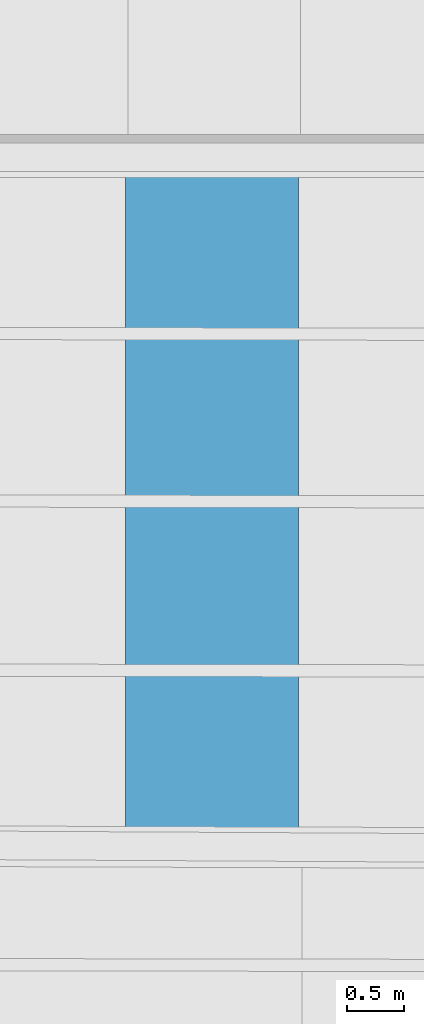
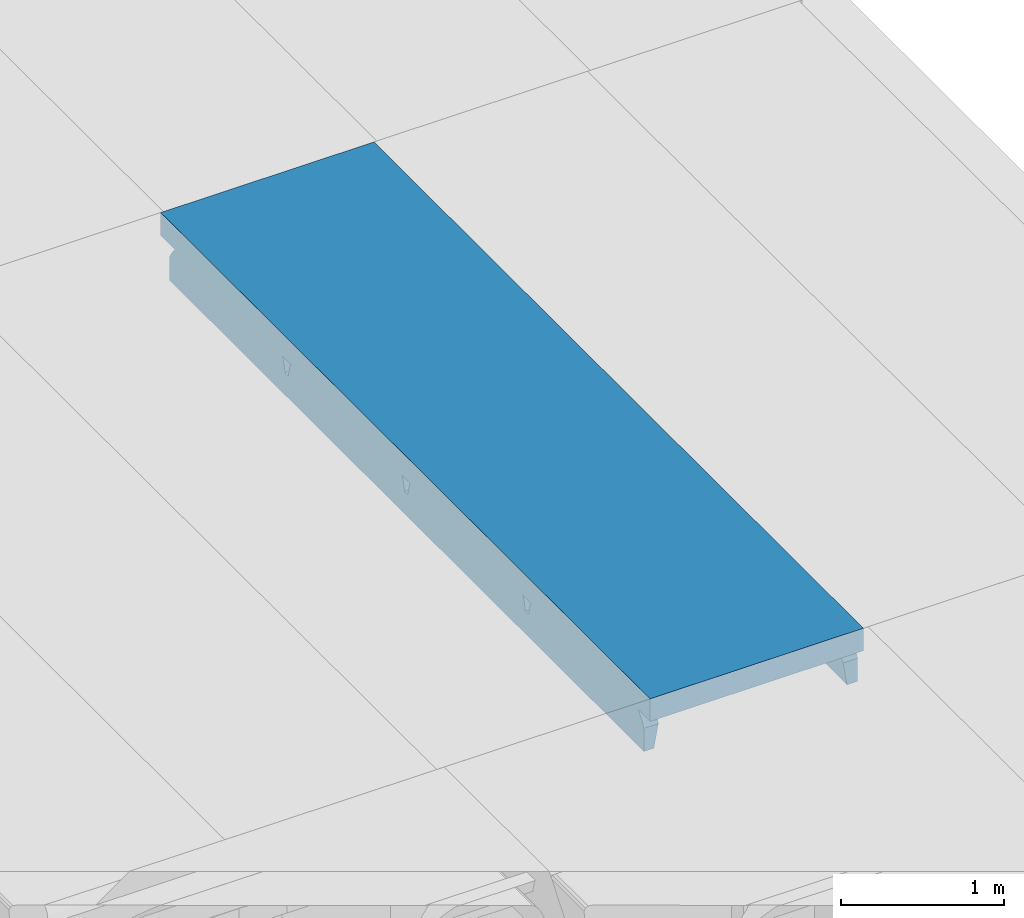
# One storey, part 41 of 301: 1 beam.
"""IFC2X3 building model written with IfcOpenShell, lengths in millimetres."""

from ifc_helpers import new_model, entity, si_unit, converted_unit, derived_unit, money_unit, direction, frame, origin_with_axes, place, context, subcontext, project, spatial, faceted_brep, material, type_object, element, save


model = new_model("IFC2X3")

# Units and contexts
model_context = context("Model", 3, precision=0.01, world=origin_with_axes(), true_north=direction((0.0, 1.0)))
body_context = subcontext(model_context, "Body", "Model", "MODEL_VIEW")
ifc_project = project(units=[si_unit("LENGTHUNIT", "METRE", prefix="MILLI"), si_unit("AREAUNIT", "SQUARE_METRE"), si_unit("VOLUMEUNIT", "CUBIC_METRE"), converted_unit("PLANEANGLEUNIT", "DEGREE", entity("IfcPlaneAngleMeasure", 0.0174532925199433), si_unit("PLANEANGLEUNIT", "RADIAN"), dimensions=[0, 0, 0, 0, 0, 0, 0]), money_unit("EUR"), converted_unit("TIMEUNIT", "Year", entity("IfcTimeMeasure", 31557600.0), si_unit("TIMEUNIT", "SECOND"), dimensions=[0, 0, 1, 0, 0, 0, 0]), si_unit("MASSUNIT", "GRAM", prefix="KILO"), si_unit("THERMODYNAMICTEMPERATUREUNIT", "DEGREE_CELSIUS"), si_unit("LUMINOUSINTENSITYUNIT", "LUMEN"), si_unit("ENERGYUNIT", "JOULE", prefix="MEGA"), derived_unit("THERMALCONDUCTANCEUNIT", [(si_unit("POWERUNIT", "WATT"), 1), (si_unit("LENGTHUNIT", "METRE"), -1), (si_unit("THERMODYNAMICTEMPERATUREUNIT", "KELVIN"), -1)]), derived_unit("SPECIFICHEATCAPACITYUNIT", [(si_unit("ENERGYUNIT", "JOULE"), 1), (si_unit("MASSUNIT", "GRAM", prefix="KILO"), -1), (si_unit("THERMODYNAMICTEMPERATUREUNIT", "KELVIN"), -1)]), derived_unit("MASSDENSITYUNIT", [(si_unit("MASSUNIT", "GRAM", prefix="KILO"), 1), (si_unit("VOLUMEUNIT", "CUBIC_METRE"), -1)])], contexts=[model_context])

# Site, building, storey
site_placement = place(None, frame((0.0, 0.0, 8650.0), z_axis=(0.0, 0.0, 1.0), x_axis=(1.0, 0.0, 0.0)))
site = spatial("IfcSite", under=ifc_project, at=site_placement, Name="43301:001:0844", CompositionType="ELEMENT")
building_placement = place(site_placement, origin_with_axes())
building = spatial("IfcBuilding", under=site, at=building_placement, Name="Kuressaare Ametikooli tuulikute mehaanikute õppekorpus", CompositionType="ELEMENT")
storey_placement = place(building_placement, origin_with_axes())
storey = spatial("IfcBuildingStorey", under=building, at=storey_placement, Name="1.korrus", CompositionType="ELEMENT", Elevation=0.0)

# Beam
ifc_material = material(Name="GENEERILINE - KONSTRUKTRIOON")
beam_type = type_object("IfcBeamType", Name="Precast Double Tee 2 1510 x 440", PredefinedType="NOTDEFINED")
beam_placement = place(storey_placement, frame((99470.87775377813, 50085.26903003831, 7100.000000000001), z_axis=(0.0, 0.0, 1.0), x_axis=(-1.0, 0.0, 0.0)))
element("IfcBeam", 1, at=beam_placement, inside=storey, type_object=beam_type, material=ifc_material, context=body_context, shape_type="Brep", body=[
    faceted_brep([(594.2116174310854, 0.0, -169.8234995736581), (734.9999999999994, 0.0, -169.8234995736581), (734.9999999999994, 0.0, 0.0), (-754.9999999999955, 0.0, 0.0), (-754.9999999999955, 0.0, -169.8234995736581), (-588.1481649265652, 0.0, -169.8234995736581), (590.5789219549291, 0.0, -169.8234995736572), (593.6993855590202, 0.0, -169.7351493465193), (754.9999999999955, 0.03570111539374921, -169.8234995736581), (734.9999999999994, 0.03570111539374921, -169.8234995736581), (594.2116174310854, 176.5184822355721, -169.8234995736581), (754.9999999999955, 176.4735915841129, -169.8234995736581), (734.9999999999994, 0.03570111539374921, 0.0), (754.9999999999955, 0.03570111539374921, 0.0), (754.9999999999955, 6000.116744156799, 0.0), (-754.9999999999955, 6000.116744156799, 0.0), (-754.9999999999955, 6000.116744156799, -169.0000000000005), (-754.9999999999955, 5861.667374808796, -169.0000000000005), (-754.9999999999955, 5872.629985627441, -180.5328579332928), (-754.9999999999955, 5904.302644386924, -221.5483087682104), (-754.9999999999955, 5929.894781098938, -266.6089685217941), (-754.9999999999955, 5929.895306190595, -440.0001340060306), (-754.9999999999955, 108.6676302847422, -440.0001340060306), (-754.9999999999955, 108.6681528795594, -267.4324680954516), (-754.9999999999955, 134.2601435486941, -222.3718083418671), (-754.9999999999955, 165.9326215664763, -181.3563575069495), (-754.9999999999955, 176.8951698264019, -169.8234995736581), (-754.9999999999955, 1502.403344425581, -175.3977593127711), (-754.9999999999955, 1506.977984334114, -184.1935020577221), (-754.9999999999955, 1527.718931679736, -271.7709778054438), (-754.9999999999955, 1567.71898538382, -271.7709778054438), (-754.9999999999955, 1588.458970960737, -184.1936973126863), (-754.9999999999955, 1593.033590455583, -175.39783429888), (-754.9999999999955, 1601.232448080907, -169.8234995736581), (-754.9999999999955, 1494.204553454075, -169.8234995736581), (-754.9999999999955, 2972.818684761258, -184.1935020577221), (-754.9999999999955, 2993.55963210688, -271.7709778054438), (-754.9999999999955, 3033.559685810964, -271.7709778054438), (-754.9999999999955, 3054.299671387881, -184.1936973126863), (-754.9999999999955, 3058.874290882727, -175.39783429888), (-754.9999999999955, 3067.073148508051, -169.8234995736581), (-754.9999999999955, 2960.045253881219, -169.8234995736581), (-754.9999999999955, 2968.244044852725, -175.3977593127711), (-754.9999999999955, 4473.651931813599, -271.7709778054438), (-754.9999999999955, 4513.651985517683, -271.7709778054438), (-754.9999999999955, 4534.391971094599, -184.1936973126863), (-754.9999999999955, 4538.966590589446, -175.39783429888), (-754.9999999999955, 4547.16544821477, -169.8234995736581), (-754.9999999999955, 4440.137553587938, -169.8234995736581), (-754.9999999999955, 4448.336344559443, -175.3977593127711), (-754.9999999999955, 4452.910984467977, -184.1935020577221), (-588.1481649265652, 176.8485863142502, -169.8234995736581), (-588.1481649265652, 1600.959034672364, -169.8234995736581), (-588.1481649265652, 2959.771840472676, -169.8234995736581), (-588.1481649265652, 3066.799735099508, -169.8234995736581), (-588.1481649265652, 4439.864140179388, -169.8234995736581), (-588.1481649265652, 4546.89203480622, -169.8234995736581), (-588.1481649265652, 5861.884551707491, -169.8234995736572), (590.5789219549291, 5857.888831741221, -169.8234995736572), (-588.1481649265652, 1493.931140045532, -169.8234995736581), (593.6993855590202, 5857.794272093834, -169.7351493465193), (610.5576441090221, 5860.50107912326, -172.6428773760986), (610.5576441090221, 4540.7809590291, -172.6428773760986), (594.2116174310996, 4544.954549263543, -169.8234995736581), (594.2116174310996, 4437.926654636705, -169.8234995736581), (610.5576441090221, 4442.046695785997, -172.6428773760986), (610.5576441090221, 3060.688659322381, -172.6428773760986), (594.2116174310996, 3064.862249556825, -169.8234995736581), (594.2116174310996, 2957.834354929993, -169.8234995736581), (610.5576441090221, 2961.954396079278, -172.6428773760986), (610.5576441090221, 1594.847958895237, -172.6428773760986), (594.2116174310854, 1599.021549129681, -169.8234995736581), (594.2116174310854, 1491.993654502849, -169.8234995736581), (610.5576441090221, 1496.113695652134, -172.6428773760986), (610.5576441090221, 173.8339614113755, -172.6428773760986), (625.4118792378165, 165.763719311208, -181.1285984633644), (625.6051041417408, 165.5471692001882, -181.3563575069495), (754.9999999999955, 165.5110433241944, -181.3563575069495), (754.9999999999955, 133.8385653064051, -222.3718083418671), (754.9999999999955, 108.2465746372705, -267.4324680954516), (754.9999999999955, 108.2460520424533, -440.0001340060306), (754.9999999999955, 5924.776617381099, -440.0001340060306), (754.9999999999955, 5924.776092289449, -266.6089685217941), (754.9999999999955, 5899.183955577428, -221.5483087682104), (754.9999999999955, 5867.511296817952, -180.5328579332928), (754.9999999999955, 5856.5486859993, -169.0000000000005), (754.9999999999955, 6000.116744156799, -169.0000000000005), (754.9999999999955, 1598.758071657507, -169.8234995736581), (754.9999999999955, 1590.559214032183, -175.39783429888), (754.9999999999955, 1585.984594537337, -184.1936973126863), (754.9999999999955, 1565.24460896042, -271.7709778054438), (754.9999999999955, 1525.244555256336, -271.7709778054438), (754.9999999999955, 1504.503607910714, -184.1935020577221), (754.9999999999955, 1499.92896800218, -175.3977593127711), (754.9999999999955, 1491.730177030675, -169.8234995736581), (754.9999999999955, 3056.399914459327, -175.39783429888), (754.9999999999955, 3051.82529496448, -184.1936973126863), (754.9999999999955, 3031.085309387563, -271.7709778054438), (754.9999999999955, 2991.08525568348, -271.7709778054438), (754.9999999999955, 2970.344308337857, -184.1935020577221), (754.9999999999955, 2965.769668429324, -175.3977593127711), (754.9999999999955, 2957.570877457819, -169.8234995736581), (754.9999999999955, 3064.598772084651, -169.8234995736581), (754.9999999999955, 4531.917594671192, -184.1936973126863), (754.9999999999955, 4511.177609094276, -271.7709778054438), (754.9999999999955, 4471.177555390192, -271.7709778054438), (754.9999999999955, 4450.436608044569, -184.1935020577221), (754.9999999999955, 4445.861968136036, -175.3977593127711), (754.9999999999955, 4437.663177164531, -169.8234995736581), (754.9999999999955, 4544.691071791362, -169.8234995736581), (754.9999999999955, 4536.492214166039, -175.39783429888), (-608.1505435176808, 5865.352983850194, -173.40101840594), (-620.114016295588, 5872.172741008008, -180.5328579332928), (624.369036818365, 5867.954117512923, -180.5328579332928), (-625.6043121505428, 5874.718770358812, -183.8058130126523), (-638.2645371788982, 5887.035074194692, -199.6996008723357), (-644.5028387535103, 5901.989655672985, -219.0380957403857), (-644.9004198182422, 5903.929422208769, -221.5483087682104), (-652.0373699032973, 5929.545752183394, -266.6089685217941), (-679.4999969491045, 5929.639371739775, -440.0001340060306), (-679.4999969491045, 108.6465513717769, -440.0001340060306), (-652.1678002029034, 108.6394430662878, -267.4324680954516), (-645.0308501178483, 134.2294411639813, -222.3718083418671), (-644.5028387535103, 136.8036148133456, -219.0380957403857), (-638.2645371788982, 151.7352224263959, -199.6996008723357), (-625.6043121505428, 164.0050052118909, -183.8058130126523), (-621.4954151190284, 165.8953483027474, -181.3563575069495), (-608.1505435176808, 173.4535633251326, -173.40101840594), (-611.5000237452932, 1502.168196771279, -175.3977593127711), (-625.6043121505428, 1506.564312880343, -183.8058130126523), (-625.9131265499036, 1506.766454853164, -184.1935020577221), (-638.2645371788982, 1510.458999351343, -199.6996008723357), (-644.5028387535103, 1515.049151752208, -219.0380957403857), (-652.8549567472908, 1527.551550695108, -271.7709778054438), (-652.8549567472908, 1567.551604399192, -271.7709778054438), (-644.5028387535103, 1580.02607951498, -219.0380957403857), (-638.2645371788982, 1584.595584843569, -199.6996008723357), (-625.9132820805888, 1588.247441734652, -184.1936973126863), (-625.6043121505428, 1588.448669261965, -183.8058130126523), (-611.5001495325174, 1592.798443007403, -175.39783429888), (-608.1505435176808, 1595.729916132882, -173.40101840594), (-608.1505435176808, 1499.225840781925, -173.40101840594), (-625.9131265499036, 2972.607155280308, -184.1935020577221), (-638.2645371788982, 2976.299699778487, -199.6996008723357), (-644.5028387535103, 2980.889852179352, -219.0380957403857), (-652.8549567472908, 2993.392251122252, -271.7709778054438), (-652.8549567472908, 3033.392304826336, -271.7709778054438), (-644.5028387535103, 3045.866779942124, -219.0380957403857), (-638.2645371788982, 3050.436285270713, -199.6996008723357), (-625.9132820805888, 3054.088142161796, -184.1936973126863), (-625.6043121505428, 3054.289369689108, -183.8058130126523), (-611.5001495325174, 3058.639143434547, -175.39783429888), (-608.1505435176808, 3061.570616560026, -173.40101840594), (-608.1505435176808, 2965.066541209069, -173.40101840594), (-611.5000237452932, 2968.008897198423, -175.3977593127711), (-625.6043121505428, 2972.405013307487, -183.8058130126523), (-652.8549567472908, 4473.484550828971, -271.7709778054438), (-652.8549567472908, 4513.484604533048, -271.7709778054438), (-644.5028387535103, 4525.959079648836, -219.0380957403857), (-638.2645371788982, 4530.528584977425, -199.6996008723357), (-625.9132820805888, 4534.180441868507, -184.1936973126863), (-625.6043121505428, 4534.381669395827, -183.8058130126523), (-611.5001495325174, 4538.731443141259, -175.39783429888), (-608.1505435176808, 4541.662916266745, -173.40101840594), (-608.1505435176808, 4445.158840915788, -173.40101840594), (-611.5000237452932, 4448.101196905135, -175.3977593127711), (-625.6043121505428, 4452.497313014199, -183.8058130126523), (-625.9131265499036, 4452.69945498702, -184.1935020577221), (-638.2645371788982, 4456.391999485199, -199.6996008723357), (-644.5028387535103, 4460.982151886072, -219.0380957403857), (625.4118792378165, 5868.410620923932, -181.1285984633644), (625.4118792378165, 4533.724065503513, -181.1285984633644), (615.3801898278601, 4536.721003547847, -175.39783429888), (615.3800585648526, 4446.090757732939, -175.3977593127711), (615.3801898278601, 3056.628703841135, -175.39783429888), (625.4118792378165, 4449.054911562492, -181.1285984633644), (625.4118792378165, 3053.631765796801, -181.1285984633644), (615.3800585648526, 2965.998458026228, -175.3977593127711), (625.4118792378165, 1587.791065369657, -181.1285984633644), (615.3801898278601, 1590.788003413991, -175.39783429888), (625.4118792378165, 2968.96261185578, -181.1285984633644), (615.3800585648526, 1500.157757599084, -175.3977593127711), (625.4118792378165, 1503.121911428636, -181.1285984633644), (636.4790028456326, 1507.061429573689, -194.1736948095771), (636.4790028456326, 155.6464770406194, -194.1736948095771), (628.0120644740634, 1504.711697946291, -184.1935020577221), (642.4305280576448, 143.2597108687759, -210.2122455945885), (644.6584596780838, 133.8693716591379, -222.3718083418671), (652.9146832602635, 108.275075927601, -267.4324680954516), (684.5333333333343, 108.2657256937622, -440.0001340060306), (684.5333333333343, 5925.015489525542, -440.0001340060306), (652.7637978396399, 5925.122658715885, -266.6089685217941), (644.5075742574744, 5899.558509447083, -221.5483087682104), (642.4305280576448, 5890.811696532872, -210.2122455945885), (636.4790028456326, 5878.446696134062, -194.1736948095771), (628.0122301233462, 1586.192684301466, -184.1936973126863), (636.4790028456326, 1583.815354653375, -194.1736948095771), (642.4305280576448, 1580.007364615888, -210.2122455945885), (653.7096051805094, 1565.41058946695, -271.7709778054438), (653.7096051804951, 1525.410535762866, -271.7709778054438), (642.4305280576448, 1510.850082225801, -210.2122455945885), (628.0122301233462, 3052.03338472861, -184.1936973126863), (642.4305280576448, 3045.848065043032, -210.2122455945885), (653.7096051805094, 3031.251289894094, -271.7709778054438), (636.4790028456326, 3049.656055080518, -194.1736948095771), (653.7096051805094, 2991.25123619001, -271.7709778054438), (642.4305280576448, 2976.690782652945, -210.2122455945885), (636.4790028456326, 2972.902130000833, -194.1736948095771), (628.0120644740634, 2970.552398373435, -184.1935020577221), (653.7096051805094, 4511.343589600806, -271.7709778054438), (628.0122301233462, 4532.125684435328, -184.1936973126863), (636.4790028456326, 4529.748354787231, -194.1736948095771), (642.4305280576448, 4525.940364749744, -210.2122455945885), (653.7096051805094, 4471.343535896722, -271.7709778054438), (642.4305280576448, 4456.783082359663, -210.2122455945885), (636.4790028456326, 4452.994429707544, -194.1736948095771), (628.0120644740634, 4450.644698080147, -184.1935020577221)], [[[0, 1, 2, 3, 4, 5, 6, 7]], [[8, 9, 1, 0, 10, 11]], [[9, 12, 2, 1]], [[2, 12, 13, 14, 15, 3]], [[4, 3, 15, 16, 17, 18, 19, 20, 21, 22, 23, 24, 25, 26], [27, 28, 29, 30, 31, 32, 33, 34], [35, 36, 37, 38, 39, 40, 41, 42], [43, 44, 45, 46, 47, 48, 49, 50]], [[4, 26, 51, 5]], [[52, 53, 54, 55, 56, 57, 58, 6, 5, 51, 59]], [[7, 6, 58, 60]], [[7, 60, 61, 62, 63, 64, 65, 66, 67, 68, 69, 70, 71, 72, 73, 74, 10, 0]], [[8, 13, 12, 9]], [[11, 10, 74, 75, 76, 77]], [[14, 13, 8, 11, 77, 78, 79, 80, 81, 82, 83, 84, 85, 86], [87, 88, 89, 90, 91, 92, 93, 94], [95, 96, 97, 98, 99, 100, 101, 102], [103, 104, 105, 106, 107, 108, 109, 110]], [[14, 86, 16, 15]], [[85, 17, 16, 86]], [[61, 60, 58, 57, 111, 112, 18, 17, 85, 84, 113]], [[18, 112, 114, 115, 116, 117, 19]], [[117, 118, 20, 19]], [[118, 119, 21, 20]], [[120, 22, 21, 119]], [[22, 120, 121, 23]], [[23, 121, 122, 24]], [[25, 24, 122, 123, 124, 125, 126]], [[127, 51, 26, 25, 126]], [[28, 27, 128, 129, 130]], [[28, 130, 131, 132, 133, 29]], [[134, 30, 29, 133]], [[30, 134, 135, 136, 137, 31]], [[32, 31, 137, 138, 139]], [[33, 32, 139, 140, 52]], [[59, 34, 33, 52]], [[27, 34, 59, 141, 128]], [[142, 143, 144, 145, 36, 35]], [[37, 36, 145, 146]], [[146, 147, 148, 149, 38, 37]], [[38, 149, 150, 151, 39]], [[39, 151, 152, 54, 40]], [[41, 40, 54, 53]], [[41, 53, 153, 154, 42]], [[42, 154, 155, 142, 35]], [[43, 156, 157, 44]], [[158, 159, 160, 45, 44, 157]], [[160, 161, 162, 46, 45]], [[162, 163, 56, 47, 46]], [[47, 56, 55, 48]], [[55, 164, 165, 49, 48]], [[165, 166, 167, 50, 49]], [[168, 169, 156, 43, 50, 167]], [[153, 53, 52, 140]], [[55, 54, 152, 164]], [[163, 111, 57, 56]], [[127, 141, 59, 51]], [[113, 170, 171, 172, 62, 61]], [[172, 110, 109, 63, 62]], [[63, 109, 108, 64]], [[108, 107, 173, 65, 64]], [[174, 66, 65, 173, 175, 176]], [[66, 174, 95, 102, 67]], [[68, 67, 102, 101]], [[68, 101, 100, 177, 69]], [[178, 179, 70, 69, 177, 180]], [[71, 70, 179, 88, 87]], [[94, 72, 71, 87]], [[73, 72, 94, 93, 181]], [[181, 182, 75, 74, 73]], [[183, 184, 76, 75, 182, 185]], [[77, 76, 184, 186, 187, 78]], [[188, 79, 78, 187]], [[189, 80, 79, 188]], [[80, 189, 190, 81]], [[82, 81, 190, 191]], [[83, 82, 191, 192]], [[113, 84, 83, 192, 193, 194, 170]], [[179, 178, 195, 89, 88]], [[196, 197, 198, 90, 89, 195]], [[90, 198, 199, 91]], [[185, 92, 91, 199, 200, 183]], [[182, 181, 93, 92, 185]], [[176, 201, 96, 95, 174]], [[202, 203, 97, 96, 201, 204]], [[203, 205, 98, 97]], [[99, 98, 205, 206, 207, 208]], [[177, 100, 99, 208, 180]], [[209, 104, 103, 210, 211, 212]], [[213, 105, 104, 209]], [[105, 213, 214, 215, 216, 106]], [[107, 106, 216, 175, 173]], [[210, 103, 110, 172, 171]], [[112, 111, 163, 162, 161, 114]], [[115, 114, 161, 160, 159]], [[158, 116, 115, 159]], [[118, 117, 116, 158, 157, 156, 169, 147, 146, 145, 144, 135, 134, 133, 132, 123, 122, 121, 120, 119]], [[123, 132, 131, 124]], [[130, 129, 125, 124, 131]], [[141, 127, 126, 125, 129, 128]], [[144, 143, 136, 135]], [[138, 137, 136, 143, 142, 155]], [[140, 139, 138, 155, 154, 153]], [[168, 148, 147, 169]], [[149, 148, 168, 167, 166, 150]], [[151, 150, 166, 165, 164, 152]], [[170, 194, 211, 210, 171]], [[201, 176, 175, 216, 215, 204]], [[196, 195, 178, 180, 208, 207]], [[184, 183, 200, 186]], [[202, 214, 213, 209, 212, 193, 192, 191, 190, 189, 188, 187, 186, 200, 199, 198, 197, 206, 205, 203]], [[211, 194, 193, 212]], [[207, 206, 197, 196]], [[214, 202, 204, 215]]]),
])

save(model, "model.ifc")
